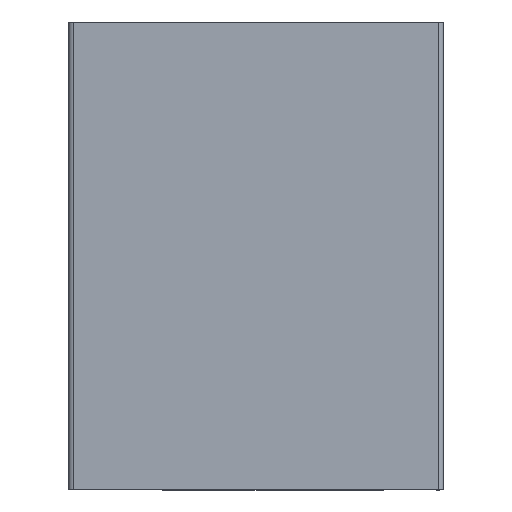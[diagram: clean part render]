
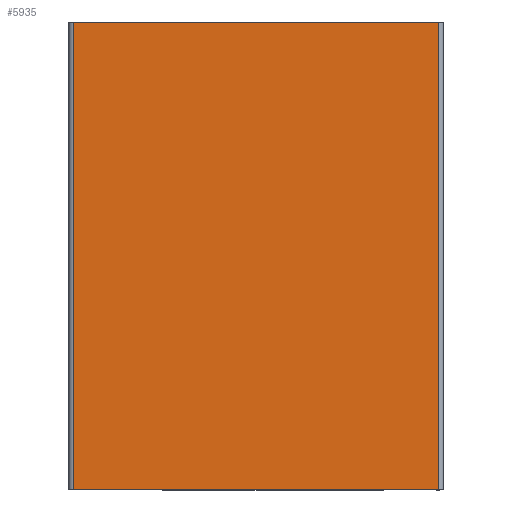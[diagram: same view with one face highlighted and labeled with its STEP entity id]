
A CAD part, left-side view. The second image highlights one B-rep face of the part: STEP entity #5935.
In plain terms, the highlighted planar face has unit normal (-1, 0, 0).
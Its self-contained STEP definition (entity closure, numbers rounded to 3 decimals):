
#716=CARTESIAN_POINT('',(-20.,59.,100.0));
#717=VERTEX_POINT('',#716);
#725=CARTESIAN_POINT('',(-20.,-19.,100.0));
#726=VERTEX_POINT('',#725);
#727=CARTESIAN_POINT('',(-20.,-19.,100.0));
#728=DIRECTION('',(0.0,1.0,0.0));
#729=VECTOR('',#728,78.);
#730=LINE('',#727,#729);
#731=EDGE_CURVE('',#726,#717,#730,.T.);
#3299=CARTESIAN_POINT('',(-20.,-19.,0.0));
#3300=VERTEX_POINT('',#3299);
#3308=CARTESIAN_POINT('',(-20.,59.,0.0));
#3309=VERTEX_POINT('',#3308);
#3310=CARTESIAN_POINT('',(-20.0,59.,0.0));
#3311=DIRECTION('',(0.0,-1.0,0.0));
#3312=VECTOR('',#3311,78.);
#3313=LINE('',#3310,#3312);
#3314=EDGE_CURVE('',#3309,#3300,#3313,.T.);
#5893=CARTESIAN_POINT('',(-20.,59.,0.0));
#5894=DIRECTION('',(0.0,0.0,1.0));
#5895=VECTOR('',#5894,100.0);
#5896=LINE('',#5893,#5895);
#5897=EDGE_CURVE('',#3309,#717,#5896,.T.);
#5908=CARTESIAN_POINT('',(-20.,-19.,100.0));
#5909=DIRECTION('',(0.0,0.0,-1.0));
#5910=VECTOR('',#5909,100.0);
#5911=LINE('',#5908,#5910);
#5912=EDGE_CURVE('',#726,#3300,#5911,.T.);
#5924=CARTESIAN_POINT('',(-20.,-20.,0.0));
#5925=DIRECTION('',(-1.0,0.0,0.0));
#5926=DIRECTION('',(0.0,0.0,1.0));
#5927=AXIS2_PLACEMENT_3D('',#5924,#5925,#5926);
#5928=PLANE('',#5927);
#5929=ORIENTED_EDGE('',*,*,#3314,.T.);
#5930=ORIENTED_EDGE('',*,*,#5912,.F.);
#5931=ORIENTED_EDGE('',*,*,#731,.T.);
#5932=ORIENTED_EDGE('',*,*,#5897,.F.);
#5933=EDGE_LOOP('',(#5929,#5930,#5931,#5932));
#5934=FACE_OUTER_BOUND('',#5933,.T.);
#5935=ADVANCED_FACE('',(#5934),#5928,.T.);
